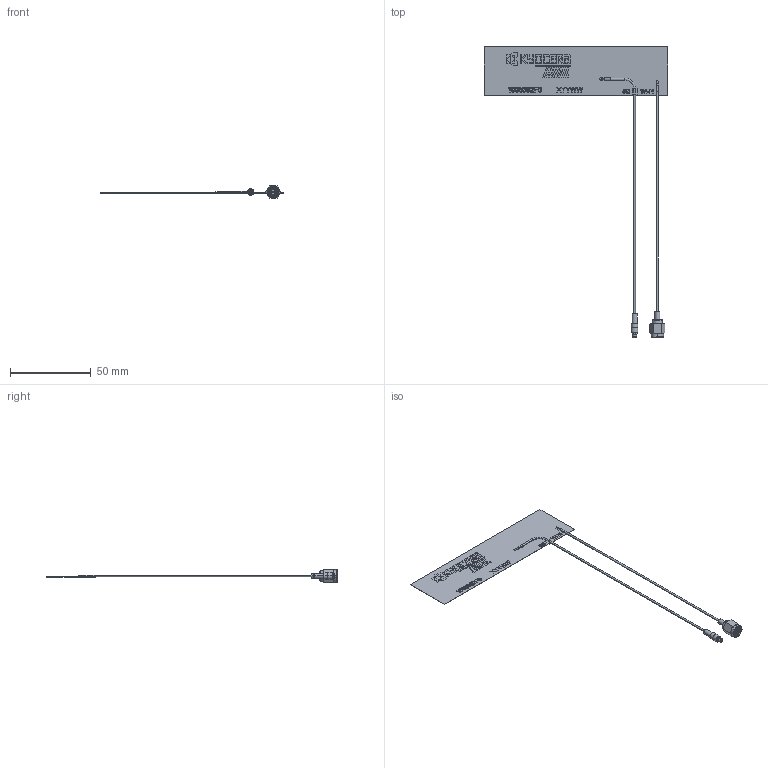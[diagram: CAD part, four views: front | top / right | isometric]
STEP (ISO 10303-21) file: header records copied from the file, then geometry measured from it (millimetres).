
FILE_DESCRIPTION((''),'2;1');
FILE_NAME('1005392F0-AS40L0150_B-ME-FIT_ASM','2026-08-24T17:29:09',('jarvayo'),(''),'CREO PARAMETRIC BY PTC INC, 2025183','CREO PARAMETRIC BY PTC INC, 2025183','');
FILE_SCHEMA(('AP203_CONFIGURATION_CONTROLLED_3D_DESIGN_OF_MECHANICAL_PARTS_AND_ASSEMBLIES_MIM_LF { 1 0 10303 403 2 1 2 }'));
Length unit declared in the file: millimetre
Products named in the file (8): 1005392F0-ME-FIT; 1005394-AS40LXXXX_CABLE; AMPHENOL_901-10107; 1005394-AS40LXXXX_ASM; 1005393-AM22LXXXX_CABLE; AMPHENOL_908-41000; 1005393-AM22LXXXX_ASM; 1005392F0-AS40L0150_B-ME-FIT_ASM
Assembly tree (7 placements, depth 3):
  1005392F0-AS40L0150_B-ME-FIT_ASM
    1005392F0-ME-FIT
    1005394-AS40LXXXX_ASM
      1005394-AS40LXXXX_CABLE
      AMPHENOL_901-10107
    1005393-AM22LXXXX_ASM
      1005393-AM22LXXXX_CABLE
      AMPHENOL_908-41000
Bounding box: 114 x 180 x 7.92 mm (x, y, z)
Volume: 1353.9 mm3; surface area: 8830.6 mm2
Topology: 6 solids, 6 shells, 761 faces, 1949 edges, 1282 vertices
Faces by surface type: plane 410, bspline 224, cylinder 80, cone 40, torus 7
Entity records: 44132 total; most frequent: CARTESIAN_POINT 19670, ORIENTED_EDGE 3898, DIRECTION 2783, PRESENTATION_STYLE_ASSIGNMENT 1966, EDGE_CURVE 1949, STYLED_ITEM 1911, CURVE_STYLE 1885, VERTEX_POINT 1282
